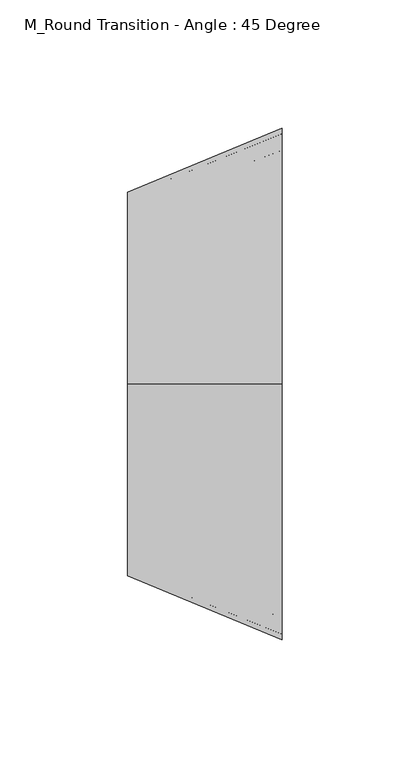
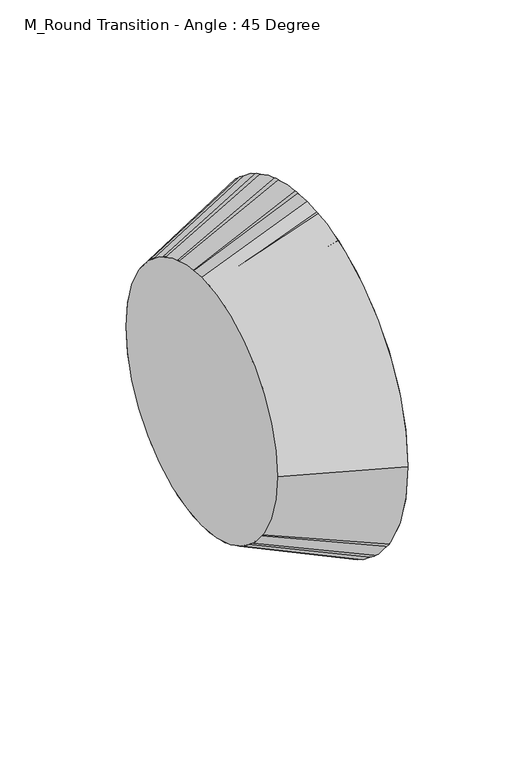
"""IFC4 building model written with IfcOpenShell, lengths in millimetres: duct fitting geometry, M_Round Transition - Angle : 45 Degree."""

from ifc_helpers import new_model, si_unit, frame, origin, place, context, project, spatial, circle_curve, source, transform, mapped, element, save
from ifc_brep_helpers import plane_surface, spline_surface, advanced_brep


def m_round_transition_angle_45_degree_68e10778(model_context):
    return source(origin(), model_context, "Body", "AdvancedBrep", [
        advanced_brep(
        [(60.3553391, -100.0, -0.0010279), (60.3553391, 0.0, -100.0010279), (60.3553391, 100.0, -0.0010279), (60.3553391, 0.0, 99.9989721), (0.0, -75.0, 0.0), (0.0, 0.0, 75.0), (0.0, 75.0, 0.0), (0.0, 0.0, -75.0)],
        [
            (0, 1, circle_curve(frame((60.3553391, 0.0, -0.0010279), z_axis=(1.0, 0.0, 0.0), x_axis=(0.0, 1.0, 0.0)), 100.0)),
            (1, 2, circle_curve(frame((60.3553391, 0.0, -0.0010279), z_axis=(1.0, 0.0, 0.0), x_axis=(0.0, 1.0, 0.0)), 100.0)),
            (2, 3, circle_curve(frame((60.3553391, 0.0, -0.0010279), z_axis=(1.0, 0.0, 0.0), x_axis=(0.0, 1.0, 0.0)), 100.0)),
            (3, 0, circle_curve(frame((60.3553391, 0.0, -0.0010279), z_axis=(1.0, 0.0, 0.0), x_axis=(0.0, 1.0, 0.0)), 100.0)),
            (4, 5, circle_curve(frame((0.0, 0.0, 0.0), z_axis=(-1.0, 0.0, 0.0), x_axis=(0.0, 1.0, 0.0)), 75.0)),
            (5, 6, circle_curve(frame((0.0, 0.0, 0.0), z_axis=(-1.0, 0.0, 0.0), x_axis=(0.0, 1.0, 0.0)), 75.0)),
            (6, 7, circle_curve(frame((0.0, 0.0, 0.0), z_axis=(-1.0, 0.0, 0.0), x_axis=(0.0, 1.0, 0.0)), 75.0)),
            (7, 4, circle_curve(frame((0.0, 0.0, 0.0), z_axis=(-1.0, 0.0, 0.0), x_axis=(0.0, 1.0, 0.0)), 75.0)),
            (7, 1),
            (0, 4),
            (6, 2),
            (5, 3),
        ],
        [
            plane_surface(frame((60.3553391, 0.0, -0.0010279), z_axis=(1.0, 0.0, 0.0), x_axis=(0.0, 0.0, -1.0))),
            plane_surface(frame((0.0, 0.0, 0.0), z_axis=(-1.0, 0.0, 0.0), x_axis=(0.0, 0.0, -1.0))),
            spline_surface(2, 1, [[(0.0, -75.0, 0.0), (60.3553391, -100.0, -0.0010279)], [(0.0, -75.0, -75.0), (60.3553391, -100.0, -100.0010279)], [(0.0, 0.0, -75.0), (60.3553391, 0.0, -100.0010279)]], [3, 3], [2, 2], [0.0, 1.0], [0.0, 1.0], weights=[[1.0, 1.0], [0.7071067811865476, 0.7071067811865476], [1.0, 1.0]]),
            spline_surface(2, 1, [[(0.0, 0.0, -75.0), (60.3553391, 0.0, -100.0010279)], [(0.0, 75.0, -75.0), (60.3553391, 100.0, -100.0010279)], [(0.0, 75.0, 0.0), (60.3553391, 100.0, -0.0010279)]], [3, 3], [2, 2], [0.0, 1.0], [0.0, 1.0], weights=[[1.0, 1.0], [0.7071067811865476, 0.7071067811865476], [1.0, 1.0]]),
            spline_surface(2, 1, [[(0.0, 75.0, 0.0), (60.3553391, 100.0, -0.0010279)], [(0.0, 75.0, 75.0), (60.3553391, 100.0, 99.9989721)], [(0.0, 0.0, 75.0), (60.3553391, 0.0, 99.9989721)]], [3, 3], [2, 2], [0.0, 1.0], [0.0, 1.0], weights=[[1.0, 1.0], [0.7071067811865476, 0.7071067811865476], [1.0, 1.0]]),
            spline_surface(2, 1, [[(0.0, 0.0, 75.0), (60.3553391, 0.0, 99.9989721)], [(0.0, -75.0, 75.0), (60.3553391, -100.0, 99.9989721)], [(0.0, -75.0, 0.0), (60.3553391, -100.0, -0.0010279)]], [3, 3], [2, 2], [0.0, 1.0], [0.0, 1.0], weights=[[1.0, 1.0], [0.7071067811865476, 0.7071067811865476], [1.0, 1.0]]),
        ],
        [
            (0, [[1, 2, 3, 4]]),
            (1, [[5, 6, 7, 8]]),
            (2, [[-8, 9, -1, 10]]),
            (3, [[-7, 11, -2, -9]]),
            (4, [[-6, 12, -3, -11]]),
            (5, [[-5, -10, -4, -12]]),
        ],
    ),
        advanced_brep(
        [(0.0, -75.0, 0.0), (0.0, 0.0, 75.0), (0.0, 75.0, 0.0), (0.0, 0.0, -75.0), (60.3553391, -100.0, -0.0010279), (60.3553391, 0.0, -100.0010279), (60.3553391, 100.0, -0.0010279), (60.3553391, 0.0, 99.9989721)],
        [
            (0, 1, circle_curve(frame((0.0, 0.0, 0.0), z_axis=(-1.0, 0.0, 0.0), x_axis=(0.0, 1.0, 0.0)), 75.0)),
            (1, 2, circle_curve(frame((0.0, 0.0, 0.0), z_axis=(-1.0, 0.0, 0.0), x_axis=(0.0, 1.0, 0.0)), 75.0)),
            (2, 3, circle_curve(frame((0.0, 0.0, 0.0), z_axis=(-1.0, 0.0, 0.0), x_axis=(0.0, 1.0, 0.0)), 75.0)),
            (3, 0, circle_curve(frame((0.0, 0.0, 0.0), z_axis=(-1.0, 0.0, 0.0), x_axis=(0.0, 1.0, 0.0)), 75.0)),
            (4, 5, circle_curve(frame((60.3553391, 0.0, -0.0010279), z_axis=(1.0, 0.0, 0.0), x_axis=(0.0, 1.0, 0.0)), 100.0)),
            (5, 6, circle_curve(frame((60.3553391, 0.0, -0.0010279), z_axis=(1.0, 0.0, 0.0), x_axis=(0.0, 1.0, 0.0)), 100.0)),
            (6, 7, circle_curve(frame((60.3553391, 0.0, -0.0010279), z_axis=(1.0, 0.0, 0.0), x_axis=(0.0, 1.0, 0.0)), 100.0)),
            (7, 4, circle_curve(frame((60.3553391, 0.0, -0.0010279), z_axis=(1.0, 0.0, 0.0), x_axis=(0.0, 1.0, 0.0)), 100.0)),
            (7, 1),
            (0, 4),
            (6, 2),
            (5, 3),
        ],
        [
            plane_surface(frame((0.0, 0.0, 0.0), z_axis=(-1.0, 0.0, 0.0), x_axis=(0.0, 0.0, -1.0))),
            plane_surface(frame((60.3553391, 0.0, -0.0010279), z_axis=(1.0, 0.0, 0.0), x_axis=(0.0, 0.0, -1.0))),
            spline_surface(2, 1, [[(60.3553391, -100.0, -0.0010279), (0.0, -75.0, 0.0)], [(60.3553391, -100.0, 99.9989721), (0.0, -75.0, 75.0)], [(60.3553391, 0.0, 99.9989721), (0.0, 0.0, 75.0)]], [3, 3], [2, 2], [0.0, 1.0], [0.0, 1.0], weights=[[1.0, 1.0], [0.7071067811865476, 0.7071067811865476], [1.0, 1.0]]),
            spline_surface(2, 1, [[(60.3553391, 0.0, 99.9989721), (0.0, 0.0, 75.0)], [(60.3553391, 100.0, 99.9989721), (0.0, 75.0, 75.0)], [(60.3553391, 100.0, -0.0010279), (0.0, 75.0, 0.0)]], [3, 3], [2, 2], [0.0, 1.0], [0.0, 1.0], weights=[[1.0, 1.0], [0.7071067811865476, 0.7071067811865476], [1.0, 1.0]]),
            spline_surface(2, 1, [[(60.3553391, 100.0, -0.0010279), (0.0, 75.0, 0.0)], [(60.3553391, 100.0, -100.0010279), (0.0, 75.0, -75.0)], [(60.3553391, 0.0, -100.0010279), (0.0, 0.0, -75.0)]], [3, 3], [2, 2], [0.0, 1.0], [0.0, 1.0], weights=[[1.0, 1.0], [0.7071067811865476, 0.7071067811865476], [1.0, 1.0]]),
            spline_surface(2, 1, [[(60.3553391, 0.0, -100.0010279), (0.0, 0.0, -75.0)], [(60.3553391, -100.0, -100.0010279), (0.0, -75.0, -75.0)], [(60.3553391, -100.0, -0.0010279), (0.0, -75.0, 0.0)]], [3, 3], [2, 2], [0.0, 1.0], [0.0, 1.0], weights=[[1.0, 1.0], [0.7071067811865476, 0.7071067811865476], [1.0, 1.0]]),
        ],
        [
            (0, [[1, 2, 3, 4]]),
            (1, [[5, 6, 7, 8]]),
            (2, [[-8, 9, -1, 10]]),
            (3, [[-7, 11, -2, -9]]),
            (4, [[-6, 12, -3, -11]]),
            (5, [[-5, -10, -4, -12]]),
        ],
    ),
        advanced_brep(
        [(60.3553391, -100.0, -0.0010279), (60.3553391, 100.0, -0.0010279), (0.0, -75.0, 0.0), (0.0, 75.0, 0.0)],
        [
            (0, 1, circle_curve(frame((60.3553391, 0.0, -0.0010279), z_axis=(1.0, 0.0, 0.0), x_axis=(0.0, 1.0, 0.0)), 100.0)),
            (1, 0, circle_curve(frame((60.3553391, 0.0, -0.0010279), z_axis=(1.0, 0.0, 0.0), x_axis=(0.0, 1.0, 0.0)), 100.0)),
            (2, 3, circle_curve(frame((0.0, 0.0, 0.0), z_axis=(-1.0, 0.0, 0.0), x_axis=(0.0, 1.0, 0.0)), 75.0)),
            (3, 2, circle_curve(frame((0.0, 0.0, 0.0), z_axis=(-1.0, 0.0, 0.0), x_axis=(0.0, 1.0, 0.0)), 75.0)),
            (3, 1),
            (0, 2),
        ],
        [
            plane_surface(frame((60.3553391, 0.0, -0.0010279), z_axis=(1.0, 0.0, 0.0), x_axis=(0.0, 0.0, -1.0))),
            plane_surface(frame((0.0, 0.0, 0.0), z_axis=(-1.0, 0.0, 0.0), x_axis=(0.0, 0.0, -1.0))),
            spline_surface(2, 1, [[(0.0, -75.0, 0.0), (60.3553391, -100.0, -0.0010279)], [(0.0, -75.0, -75.0), (60.3553391, -100.0, -100.0010279)], [(0.0, 0.0, -75.0), (60.3553391, 0.0, -100.0010279)], [(0.0, 75.0, -75.0), (60.3553391, 100.0, -100.0010279)], [(0.0, 75.0, 0.0), (60.3553391, 100.0, -0.0010279)]], [3, 2, 3], [2, 2], [0.0, 1.0, 2.0], [0.0, 1.0], weights=[[1.0, 1.0], [0.7071067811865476, 0.7071067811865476], [1.0, 1.0], [0.7071067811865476, 0.7071067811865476], [1.0, 1.0]]),
            spline_surface(2, 1, [[(0.0, 75.0, 0.0), (60.3553391, 100.0, -0.0010279)], [(0.0, 75.0, 75.0), (60.3553391, 100.0, 99.9989721)], [(0.0, 0.0, 75.0), (60.3553391, 0.0, 99.9989721)], [(0.0, -75.0, 75.0), (60.3553391, -100.0, 99.9989721)], [(0.0, -75.0, 0.0), (60.3553391, -100.0, -0.0010279)]], [3, 2, 3], [2, 2], [0.0, 1.0, 2.0], [0.0, 1.0], weights=[[1.0, 1.0], [0.7071067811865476, 0.7071067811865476], [1.0, 1.0], [0.7071067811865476, 0.7071067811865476], [1.0, 1.0]]),
        ],
        [
            (0, [[1, 2]]),
            (1, [[3, 4]]),
            (2, [[-4, 5, -1, 6]]),
            (3, [[-3, -6, -2, -5]]),
        ],
    ),
    ])


if __name__ == "__main__":
    model = new_model("IFC4")
    model_context = context("Model", 3, world=origin())
    ifc_project = project(units=[si_unit("LENGTHUNIT", "METRE", prefix="MILLI")], contexts=[model_context])
    site = spatial("IfcSite", under=ifc_project)
    building = spatial("IfcBuilding", under=site)
    placement = place(None, origin())
    m_round_transition_angle_45_degree_shape = m_round_transition_angle_45_degree_68e10778(model_context)
    element("IfcDuctFitting", 1, ObjectType="M_Round Transition - Angle : 45 Degree", at=placement, inside=building, context=model_context, shape_type="MappedRepresentation", body=[
        mapped(m_round_transition_angle_45_degree_shape, transform((0.0, 0.0, 0.0), x_axis=(1.0, 0.0, 0.0), y_axis=(0.0, 1.0, 0.0), z_axis=(0.0, 0.0, 1.0))),
    ])
    save(model, "model.ifc")
